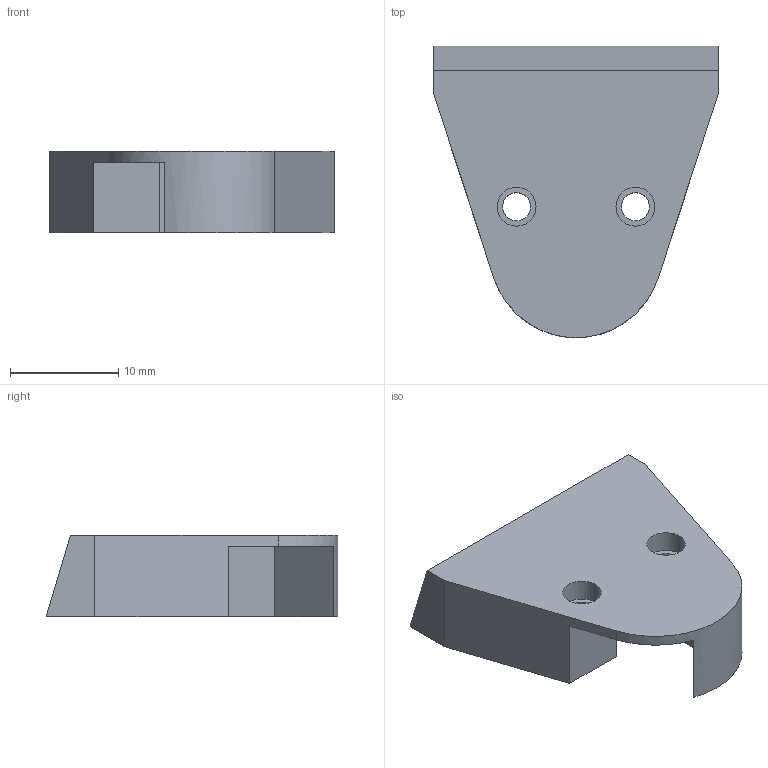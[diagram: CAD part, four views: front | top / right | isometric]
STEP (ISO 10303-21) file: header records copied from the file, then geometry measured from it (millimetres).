
FILE_DESCRIPTION (( 'STEP AP214' ), '1' );
FILE_NAME ('湮譬硌軗盄裔', '2026-06-26T08:22:45', ( '' ), ( '' ), 'SwSTEP 2.0', 'SolidWorks 2024', '' );
FILE_SCHEMA (( 'AUTOMOTIVE_DESIGN' ));
Length unit declared in the file: millimetre
Products named in the file (1): 大拇指走线盖子
Bounding box: 26.3 x 27 x 7.5 mm (x, y, z)
Volume: 1704.7 mm3; surface area: 2238.9 mm2
Topology: 1 solids, 1 shells, 28 faces, 72 edges, 48 vertices
Faces by surface type: plane 19, cylinder 9
Entity records: 886 total; most frequent: CARTESIAN_POINT 149, DIRECTION 149, ORIENTED_EDGE 144, EDGE_CURVE 72, VECTOR 53, LINE 53, VERTEX_POINT 48, AXIS2_PLACEMENT_3D 48
